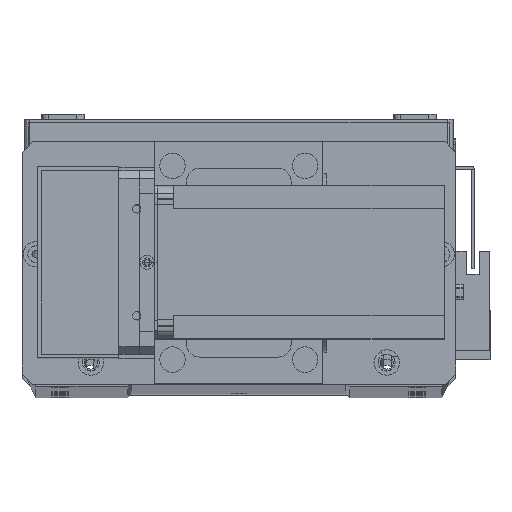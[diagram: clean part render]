
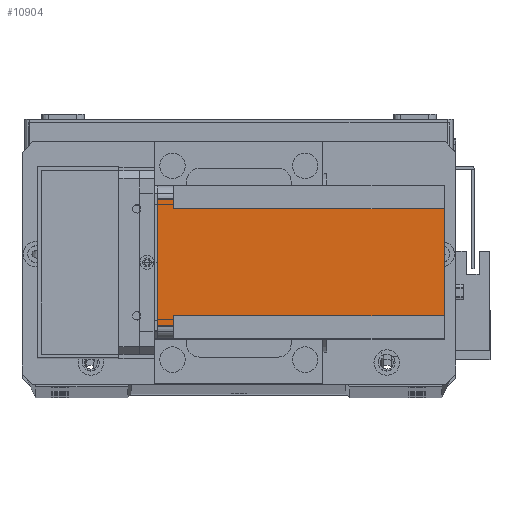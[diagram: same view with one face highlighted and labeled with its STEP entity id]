
A CAD part, top view. The second image highlights one B-rep face of the part: STEP entity #10904.
In plain terms, the highlighted planar face has unit normal (0, 0, 1) as drawn and (-1, 0, 0) by its records, which use the part's own axes.
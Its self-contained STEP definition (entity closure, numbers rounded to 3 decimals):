
#873 = LINE ( 'NONE', #5420, #20875 ) ;
#1182 = CARTESIAN_POINT ( 'NONE',  ( 0., 0., -112.5 ) ) ;
#1834 = VERTEX_POINT ( 'NONE', #32153 ) ;
#2192 = DIRECTION ( 'NONE',  ( 0., -1., 0. ) ) ;
#2616 = CARTESIAN_POINT ( 'NONE',  ( 0., 55., -112.5 ) ) ;
#3466 = VECTOR ( 'NONE', #20870, 1000. ) ;
#4325 = LINE ( 'NONE', #23117, #18183 ) ;
#5269 = ORIENTED_EDGE ( 'NONE', *, *, #21027, .T. ) ;
#5420 = CARTESIAN_POINT ( 'NONE',  ( 0., 5., -112.5 ) ) ;
#5823 = VERTEX_POINT ( 'NONE', #31470 ) ;
#6102 = FACE_OUTER_BOUND ( 'NONE', #18475, .T. ) ;
#6476 = CARTESIAN_POINT ( 'NONE',  ( 0., 9., -112.5 ) ) ;
#7338 = LINE ( 'NONE', #13683, #15085 ) ;
#7532 = CARTESIAN_POINT ( 'NONE',  ( 0., 0., -112.5 ) ) ;
#8873 = ORIENTED_EDGE ( 'NONE', *, *, #30876, .F. ) ;
#9006 = EDGE_CURVE ( 'NONE', #15434, #20631, #28320, .T. ) ;
#9355 = CARTESIAN_POINT ( 'NONE',  ( 0., 9., -112.5 ) ) ;
#10142 = DIRECTION ( 'NONE',  ( 0., -1., 0. ) ) ;
#10531 = CARTESIAN_POINT ( 'NONE',  ( 0., 60., -6.5 ) ) ;
#10904 = ADVANCED_FACE ( 'NONE', ( #6102 ), #23168, .T. ) ;
#11326 = LINE ( 'NONE', #6476, #30581 ) ;
#13683 = CARTESIAN_POINT ( 'NONE',  ( 0., 0., -6.5 ) ) ;
#14723 = EDGE_CURVE ( 'NONE', #15434, #28776, #15697, .T. ) ;
#15085 = VECTOR ( 'NONE', #16275, 1000. ) ;
#15434 = VERTEX_POINT ( 'NONE', #29421 ) ;
#15697 = LINE ( 'NONE', #2616, #3466 ) ;
#16275 = DIRECTION ( 'NONE',  ( 0., 1., 0. ) ) ;
#16538 = VERTEX_POINT ( 'NONE', #27774 ) ;
#16952 = CARTESIAN_POINT ( 'NONE',  ( 0., 5., 0. ) ) ;
#17032 = EDGE_CURVE ( 'NONE', #28878, #21928, #11326, .T. ) ;
#18183 = VECTOR ( 'NONE', #23229, 1000. ) ;
#18475 = EDGE_LOOP ( 'NONE', ( #8873, #5269, #28967, #20419, #23997, #26352, #20202, #33230 ) ) ;
#19409 = DIRECTION ( 'NONE',  ( 0., -1., 0. ) ) ;
#19900 = LINE ( 'NONE', #1182, #33843 ) ;
#20202 = ORIENTED_EDGE ( 'NONE', *, *, #32148, .T. ) ;
#20419 = ORIENTED_EDGE ( 'NONE', *, *, #14723, .T. ) ;
#20631 = VERTEX_POINT ( 'NONE', #16952 ) ;
#20870 = DIRECTION ( 'NONE',  ( 0., 0., -1. ) ) ;
#20875 = VECTOR ( 'NONE', #26203, 1000. ) ;
#21027 = EDGE_CURVE ( 'NONE', #1834, #20631, #873, .T. ) ;
#21928 = VERTEX_POINT ( 'NONE', #9355 ) ;
#21980 = LINE ( 'NONE', #10531, #23628 ) ;
#23117 = CARTESIAN_POINT ( 'NONE',  ( 0., 51., -112.5 ) ) ;
#23148 = CARTESIAN_POINT ( 'NONE',  ( 0., 55., -6.5 ) ) ;
#23168 = PLANE ( 'NONE',  #29503 ) ;
#23229 = DIRECTION ( 'NONE',  ( 0., 0., 1. ) ) ;
#23628 = VECTOR ( 'NONE', #26185, 1000. ) ;
#23997 = ORIENTED_EDGE ( 'NONE', *, *, #31843, .F. ) ;
#25791 = DIRECTION ( 'NONE',  ( -1., 0., 0. ) ) ;
#26185 = DIRECTION ( 'NONE',  ( 0., 1., 0. ) ) ;
#26203 = DIRECTION ( 'NONE',  ( 0., 0., 1. ) ) ;
#26352 = ORIENTED_EDGE ( 'NONE', *, *, #33212, .F. ) ;
#27376 = DIRECTION ( 'NONE',  ( 0., 0., -1. ) ) ;
#27495 = VECTOR ( 'NONE', #2192, 1000. ) ;
#27774 = CARTESIAN_POINT ( 'NONE',  ( 0., 51., -6.5 ) ) ;
#28320 = LINE ( 'NONE', #33502, #27495 ) ;
#28776 = VERTEX_POINT ( 'NONE', #23148 ) ;
#28878 = VERTEX_POINT ( 'NONE', #31385 ) ;
#28967 = ORIENTED_EDGE ( 'NONE', *, *, #9006, .F. ) ;
#29421 = CARTESIAN_POINT ( 'NONE',  ( 0., 55., 0. ) ) ;
#29503 = AXIS2_PLACEMENT_3D ( 'NONE', #7532, #25791, #10142 ) ;
#30581 = VECTOR ( 'NONE', #27376, 1000. ) ;
#30876 = EDGE_CURVE ( 'NONE', #1834, #28878, #7338, .T. ) ;
#31385 = CARTESIAN_POINT ( 'NONE',  ( 0., 9., -6.5 ) ) ;
#31470 = CARTESIAN_POINT ( 'NONE',  ( 0., 51., -112.5 ) ) ;
#31843 = EDGE_CURVE ( 'NONE', #16538, #28776, #21980, .T. ) ;
#32148 = EDGE_CURVE ( 'NONE', #5823, #21928, #19900, .T. ) ;
#32153 = CARTESIAN_POINT ( 'NONE',  ( 0., 5., -6.5 ) ) ;
#33212 = EDGE_CURVE ( 'NONE', #5823, #16538, #4325, .T. ) ;
#33230 = ORIENTED_EDGE ( 'NONE', *, *, #17032, .F. ) ;
#33502 = CARTESIAN_POINT ( 'NONE',  ( 0., 0., 0. ) ) ;
#33843 = VECTOR ( 'NONE', #19409, 1000. ) ;
